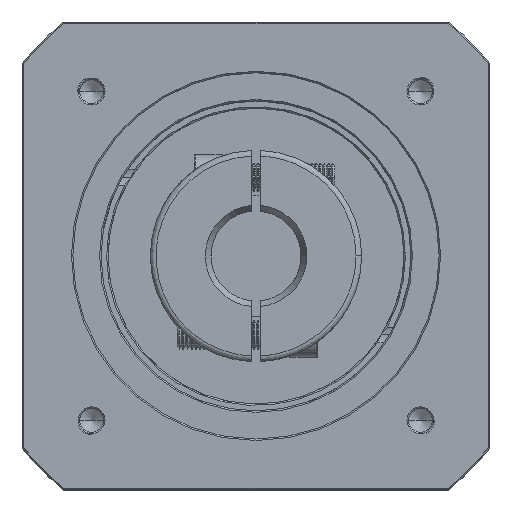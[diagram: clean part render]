
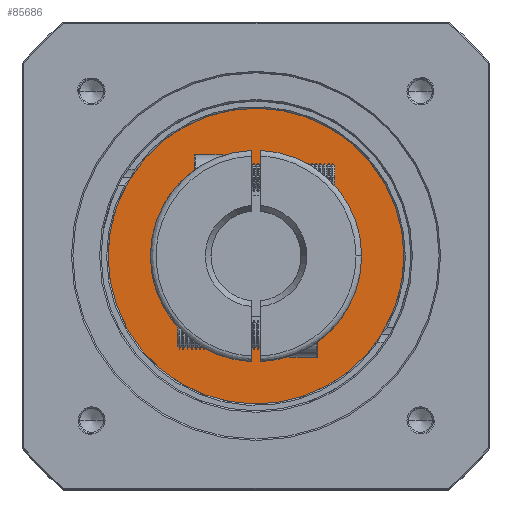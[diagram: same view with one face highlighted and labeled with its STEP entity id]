
A CAD part, top view. The second image highlights one B-rep face of the part: STEP entity #85686.
In plain terms, the highlighted planar face has unit normal (0, 0, 1).
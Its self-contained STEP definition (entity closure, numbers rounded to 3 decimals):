
#5799 = EDGE_CURVE ( 'NONE', #48232, #112617, #11531, .T. ) ;
#9248 = EDGE_CURVE ( 'NONE', #64452, #47845, #17401, .T. ) ;
#11107 = ORIENTED_EDGE ( 'NONE', *, *, #138625, .F. ) ;
#11132 = FACE_OUTER_BOUND ( 'NONE', #131409, .T. ) ;
#11531 = CIRCLE ( 'NONE', #27006, 52.5 ) ;
#12241 = CARTESIAN_POINT ( 'NONE',  ( -55.904, 80.326, -1.354 ) ) ;
#14757 = EDGE_CURVE ( 'NONE', #47845, #64452, #50580, .T. ) ;
#16887 = DIRECTION ( 'NONE',  ( 0., 1., 0. ) ) ;
#17401 = CIRCLE ( 'NONE', #32958, 30.5 ) ;
#18484 = CARTESIAN_POINT ( 'NONE',  ( -108.404, 80.326, -1.354 ) ) ;
#18539 = CARTESIAN_POINT ( 'NONE',  ( -108.404, 80.326, -1.354 ) ) ;
#27006 = AXIS2_PLACEMENT_3D ( 'NONE', #18539, #126175, #50908 ) ;
#32029 = CIRCLE ( 'NONE', #135252, 52.5 ) ;
#32264 = DIRECTION ( 'NONE',  ( 0., 0., -1. ) ) ;
#32958 = AXIS2_PLACEMENT_3D ( 'NONE', #96294, #32264, #53776 ) ;
#47845 = VERTEX_POINT ( 'NONE', #58836 ) ;
#48232 = VERTEX_POINT ( 'NONE', #12241 ) ;
#50580 = CIRCLE ( 'NONE', #91960, 30.5 ) ;
#50908 = DIRECTION ( 'NONE',  ( -1., 0., 0. ) ) ;
#53776 = DIRECTION ( 'NONE',  ( 0., 1., 0. ) ) ;
#58836 = CARTESIAN_POINT ( 'NONE',  ( -108.404, 49.826, -1.354 ) ) ;
#62416 = ORIENTED_EDGE ( 'NONE', *, *, #5799, .F. ) ;
#64452 = VERTEX_POINT ( 'NONE', #68156 ) ;
#68156 = CARTESIAN_POINT ( 'NONE',  ( -108.404, 110.826, -1.354 ) ) ;
#68711 = CARTESIAN_POINT ( 'NONE',  ( -160.904, 80.326, -1.354 ) ) ;
#72113 = CARTESIAN_POINT ( 'NONE',  ( -108.404, 80.326, -1.354 ) ) ;
#72418 = AXIS2_PLACEMENT_3D ( 'NONE', #72113, #83276, #94042 ) ;
#83276 = DIRECTION ( 'NONE',  ( 0., 0., -1. ) ) ;
#85686 = ADVANCED_FACE ( 'NONE', ( #103109, #11132 ), #113715, .F. ) ;
#89145 = EDGE_LOOP ( 'NONE', ( #104011, #133563 ) ) ;
#91960 = AXIS2_PLACEMENT_3D ( 'NONE', #135409, #133548, #16887 ) ;
#93397 = DIRECTION ( 'NONE',  ( -1., 0., 0. ) ) ;
#94042 = DIRECTION ( 'NONE',  ( -1., 0., 0. ) ) ;
#96294 = CARTESIAN_POINT ( 'NONE',  ( -108.404, 80.326, -1.354 ) ) ;
#103109 = FACE_BOUND ( 'NONE', #89145, .T. ) ;
#104011 = ORIENTED_EDGE ( 'NONE', *, *, #9248, .T. ) ;
#112617 = VERTEX_POINT ( 'NONE', #68711 ) ;
#113715 = PLANE ( 'NONE',  #72418 ) ;
#126127 = DIRECTION ( 'NONE',  ( 0., 0., -1. ) ) ;
#126175 = DIRECTION ( 'NONE',  ( 0., 0., -1. ) ) ;
#131409 = EDGE_LOOP ( 'NONE', ( #11107, #62416 ) ) ;
#133548 = DIRECTION ( 'NONE',  ( 0., 0., -1. ) ) ;
#133563 = ORIENTED_EDGE ( 'NONE', *, *, #14757, .T. ) ;
#135252 = AXIS2_PLACEMENT_3D ( 'NONE', #18484, #126127, #93397 ) ;
#135409 = CARTESIAN_POINT ( 'NONE',  ( -108.404, 80.326, -1.354 ) ) ;
#138625 = EDGE_CURVE ( 'NONE', #112617, #48232, #32029, .T. ) ;
